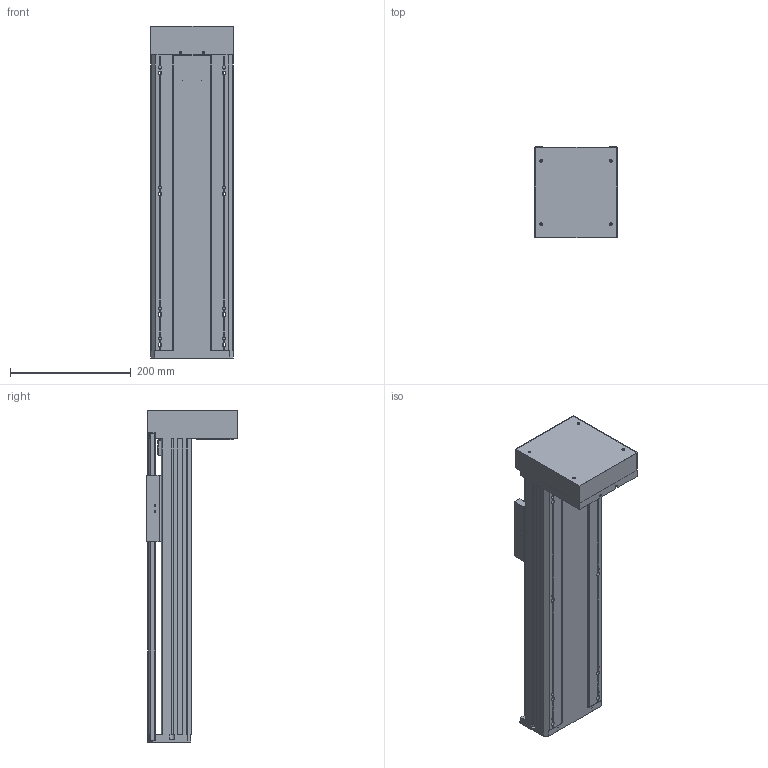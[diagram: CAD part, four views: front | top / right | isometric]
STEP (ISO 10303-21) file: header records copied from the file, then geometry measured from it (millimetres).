
FILE_DESCRIPTION(/* description */ (''),/* implementation_level */ '2;1');
FILE_NAME(/* name */ 'TKA136-FD-300_asm1.stp',/* time_stamp */ '2016-05-07T09:17:56+08:00',/* author */ (''),/* organization */ (''),/* preprocessor_version */ 'ST-DEVELOPER v15',/* originating_system */ 'SIEMENS PLM Software NX 8.5',/* authorisation */ '');
FILE_SCHEMA (('AUTOMOTIVE_DESIGN { 1 0 10303 214 3 1 1 1 }'));
Length unit declared in the file: millimetre
Products named in the file (3): 100-02; 100-01; TKA136-FD-300_asm1
Assembly tree (2 placements, depth 2):
  TKA136-FD-300_asm1
    100-01
    100-02
Bounding box: 136 x 152 x 550 mm (x, y, z)
Volume: 1968404.6 mm3; surface area: 762883.5 mm2
Topology: 2 solids, 13 shells, 912 faces, 2515 edges, 1619 vertices
Faces by surface type: cylinder 427, plane 420, cone 65
Full cylindrical faces by diameter (mm): 3 x2, 3.3 x13, 4 x4, 4.2 x8, 4.5 x14, 5 x8, 5.5 x26, 6.6 x12, 8 x12, 10 x9, 10.5 x8, 11 x4, 11.6 x1, 12 x9, 15 x3, 16 x5, 17 x1, 24 x5, 26 x1, 28 x1, 46 x1, 50 x2
Entity records: 30282 total; most frequent: CARTESIAN_POINT 7724, DIRECTION 4750, ORIENTED_EDGE 4426, EDGE_CURVE 2213, AXIS2_PLACEMENT_3D 1795, VERTEX_POINT 1536, EDGE_LOOP 1282, LINE 1160
